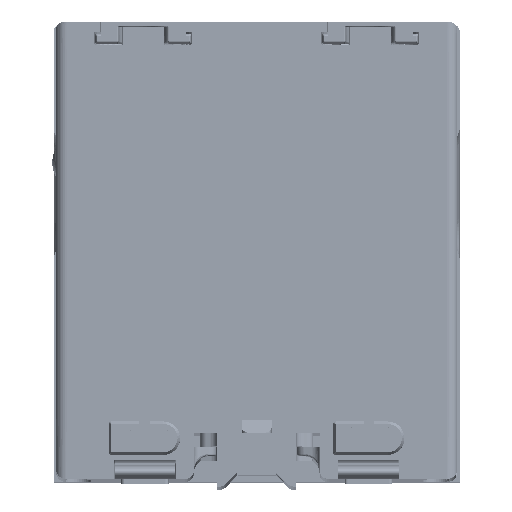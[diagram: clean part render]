
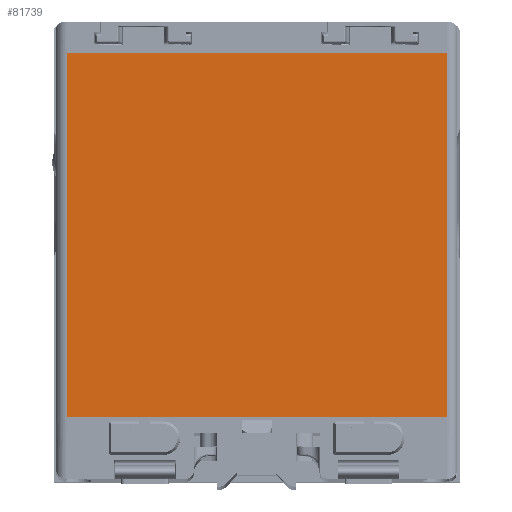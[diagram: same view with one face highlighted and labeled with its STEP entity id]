
A CAD part, top view. The second image highlights one B-rep face of the part: STEP entity #81739.
In plain terms, the highlighted planar face has unit normal (0, 0, 1) as drawn and (1, 0, 0) by its records, which use the part's own axes.
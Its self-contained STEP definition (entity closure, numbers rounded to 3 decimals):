
#566 = EDGE_CURVE ( 'NONE', #116616, #130038, #29918, .T. ) ;
#1278 = CARTESIAN_POINT ( 'NONE',  ( 27.371, 71., -37. ) ) ;
#4382 = CARTESIAN_POINT ( 'NONE',  ( 27.371, 0., -37. ) ) ;
#14650 = DIRECTION ( 'NONE',  ( 0., -1., 0. ) ) ;
#16375 = VECTOR ( 'NONE', #26608, 1000. ) ;
#17488 = CARTESIAN_POINT ( 'NONE',  ( 27.371, 71., -37. ) ) ;
#20641 = DIRECTION ( 'NONE',  ( 0., 0., 1. ) ) ;
#20753 = EDGE_CURVE ( 'NONE', #89616, #162860, #131125, .T. ) ;
#26608 = DIRECTION ( 'NONE',  ( 0., 0., -1. ) ) ;
#29918 = LINE ( 'NONE', #104539, #74821 ) ;
#32409 = CARTESIAN_POINT ( 'NONE',  ( 27.371, 71., 37. ) ) ;
#32455 = ORIENTED_EDGE ( 'NONE', *, *, #20753, .F. ) ;
#39476 = VECTOR ( 'NONE', #156063, 1000. ) ;
#40062 = CARTESIAN_POINT ( 'NONE',  ( 27.371, 71., -37. ) ) ;
#51140 = ORIENTED_EDGE ( 'NONE', *, *, #566, .T. ) ;
#54693 = LINE ( 'NONE', #4382, #39476 ) ;
#74821 = VECTOR ( 'NONE', #80182, 1000. ) ;
#76323 = ORIENTED_EDGE ( 'NONE', *, *, #101715, .F. ) ;
#80182 = DIRECTION ( 'NONE',  ( 0., -1., 0. ) ) ;
#81739 = ADVANCED_FACE ( 'NONE', ( #84313 ), #159768, .F. ) ;
#84313 = FACE_OUTER_BOUND ( 'NONE', #143781, .T. ) ;
#89616 = VERTEX_POINT ( 'NONE', #17488 ) ;
#96047 = CARTESIAN_POINT ( 'NONE',  ( 27.371, 0., 37. ) ) ;
#96058 = CARTESIAN_POINT ( 'NONE',  ( 27.371, 71., -37. ) ) ;
#101715 = EDGE_CURVE ( 'NONE', #116616, #89616, #133572, .T. ) ;
#104539 = CARTESIAN_POINT ( 'NONE',  ( 27.371, 71., 37. ) ) ;
#105275 = ORIENTED_EDGE ( 'NONE', *, *, #140204, .T. ) ;
#116616 = VERTEX_POINT ( 'NONE', #32409 ) ;
#125444 = CARTESIAN_POINT ( 'NONE',  ( 27.371, 0., -37. ) ) ;
#130038 = VERTEX_POINT ( 'NONE', #96047 ) ;
#131125 = LINE ( 'NONE', #1278, #153118 ) ;
#133572 = LINE ( 'NONE', #40062, #16375 ) ;
#135465 = DIRECTION ( 'NONE',  ( -1., 0., 0. ) ) ;
#140204 = EDGE_CURVE ( 'NONE', #130038, #162860, #54693, .T. ) ;
#143781 = EDGE_LOOP ( 'NONE', ( #105275, #32455, #76323, #51140 ) ) ;
#144208 = AXIS2_PLACEMENT_3D ( 'NONE', #96058, #135465, #20641 ) ;
#153118 = VECTOR ( 'NONE', #14650, 1000. ) ;
#156063 = DIRECTION ( 'NONE',  ( 0., 0., -1. ) ) ;
#159768 = PLANE ( 'NONE',  #144208 ) ;
#162860 = VERTEX_POINT ( 'NONE', #125444 ) ;
